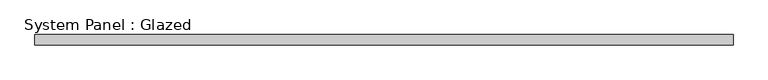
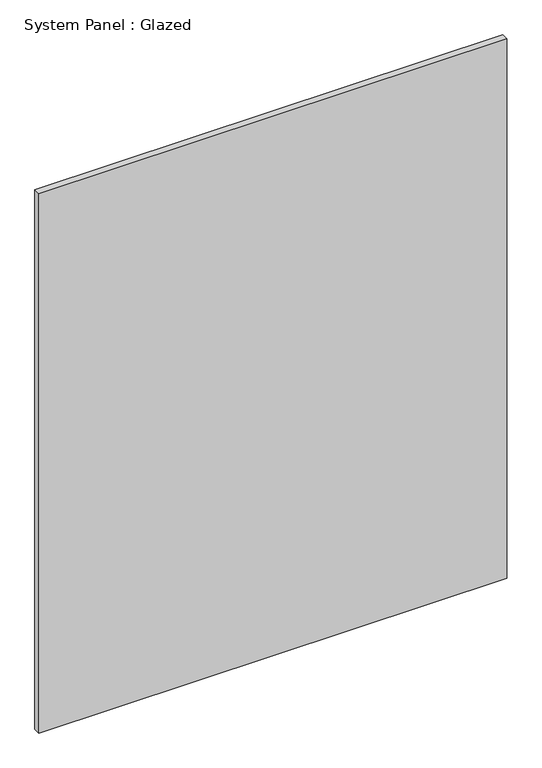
"""IFC4 building model written with IfcOpenShell, lengths in millimetres: plate geometry, System Panel : Glazed."""

from ifc_helpers import new_model, si_unit, origin, origin_with_axes, place, context, project, spatial, polyline, outline, extrude, source, transform, mapped, element, save


def system_panel_glazed_c6fad86c(model_context):
    return source(origin(), model_context, "Body", "SweptSolid", [
        extrude(outline(polyline([(952.3509533, -14.0), (-952.3509533, -14.0), (-952.3509533, 14.0), (952.3509533, 14.0), (952.3509533, -14.0)])), origin_with_axes(), (0.0, 0.0, 1.0), 2320.5),
    ])


if __name__ == "__main__":
    model = new_model("IFC4")
    model_context = context("Model", 3, world=origin())
    ifc_project = project(units=[si_unit("LENGTHUNIT", "METRE", prefix="MILLI")], contexts=[model_context])
    site = spatial("IfcSite", under=ifc_project)
    building = spatial("IfcBuilding", under=site)
    placement = place(None, origin())
    system_panel_glazed_shape = system_panel_glazed_c6fad86c(model_context)
    element("IfcPlate", 1, ObjectType="System Panel : Glazed", at=placement, inside=building, context=model_context, shape_type="MappedRepresentation", body=[
        mapped(system_panel_glazed_shape, transform((0.0, 0.0, 0.0), x_axis=(1.0, 0.0, 0.0), y_axis=(0.0, 1.0, 0.0), z_axis=(0.0, 0.0, 1.0))),
    ])
    save(model, "model.ifc")
